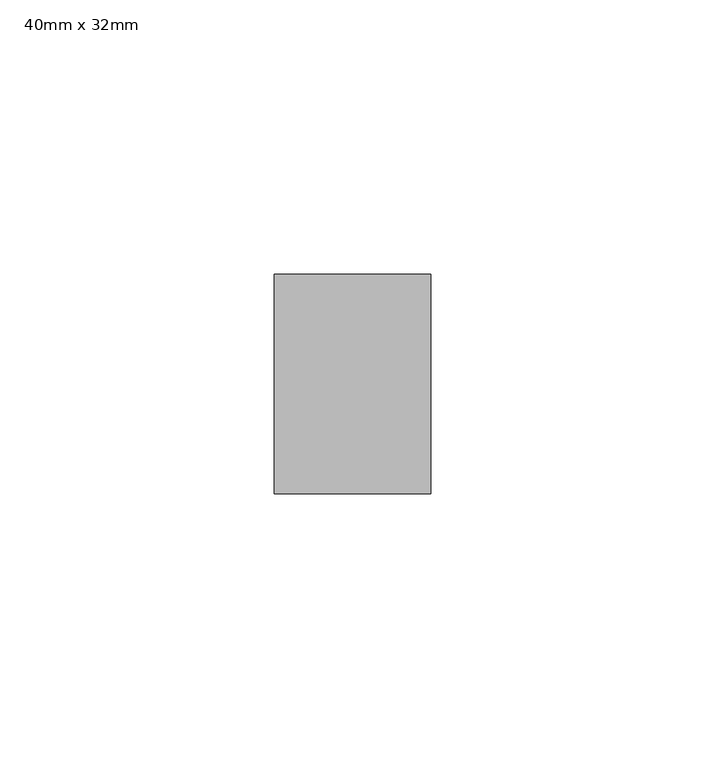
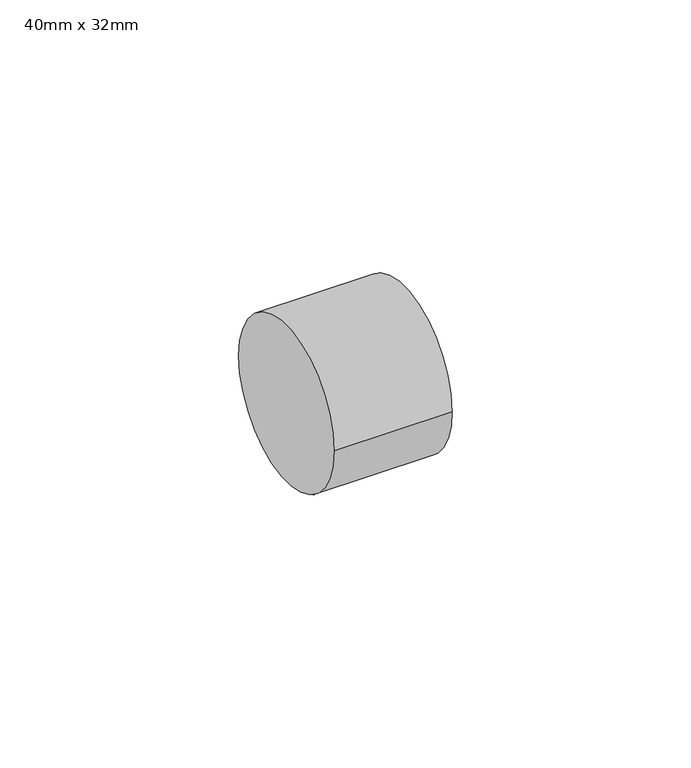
"""IFC4 building model written with IfcOpenShell, lengths in millimetres: pipe fitting geometry, PipeFitting_HTA_CPVC_ReducingBushesShortPattern : 40mm x 32mm."""

from ifc_helpers import new_model, si_unit, point, frame, origin, origin_2d, place, context, project, spatial, circle_curve, trimmed, segment, composite_curve, outline, extrude, source, transform, mapped, element, save


def pipe_fitting_40mm_x_32mm_aed70c7e(model_context):
    return source(origin(), model_context, "Body", "SweptSolid", [
        extrude(outline(composite_curve([segment(trimmed(circle_curve(origin_2d(), 20.0), [point((-20.0, 0.0))], [point((20.0, 0.0))], False, "CARTESIAN"), True, "CONTINUOUS"), segment(trimmed(circle_curve(origin_2d(), 20.0), [point((20.0, 0.0))], [point((-20.0, 0.0))], False, "CARTESIAN"), True, "CONTINUOUS")], self_intersect=False)), frame((-14.25, 0.0, 0.0), z_axis=(1.0, 0.0, 0.0), x_axis=(0.0, 1.0, 0.0)), (0.0, 0.0, 1.0), 28.5),
    ])


if __name__ == "__main__":
    model = new_model("IFC4")
    model_context = context("Model", 3, world=origin())
    ifc_project = project(units=[si_unit("LENGTHUNIT", "METRE", prefix="MILLI")], contexts=[model_context])
    site = spatial("IfcSite", under=ifc_project)
    building = spatial("IfcBuilding", under=site)
    placement = place(None, origin())
    pipe_fitting_40mm_x_32mm_shape = pipe_fitting_40mm_x_32mm_aed70c7e(model_context)
    element("IfcPipeFitting", 1, ObjectType="PipeFitting_HTA_CPVC_ReducingBushesShortPattern : 40mm x 32mm", at=placement, inside=building, context=model_context, shape_type="MappedRepresentation", body=[
        mapped(pipe_fitting_40mm_x_32mm_shape, transform((0.0, 0.0, 0.0), x_axis=(1.0, 0.0, 0.0), y_axis=(0.0, 1.0, 0.0), z_axis=(0.0, 0.0, 1.0))),
    ])
    save(model, "model.ifc")
